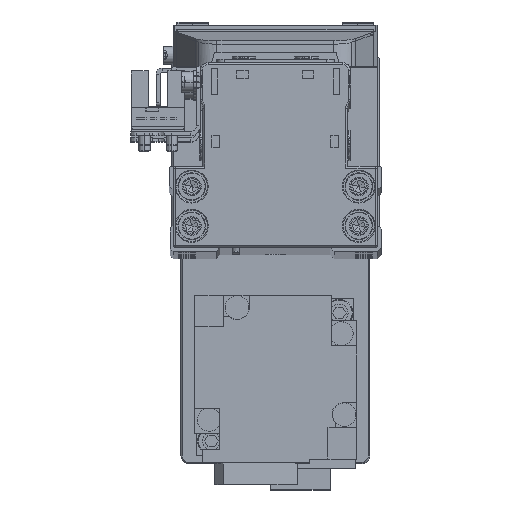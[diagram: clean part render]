
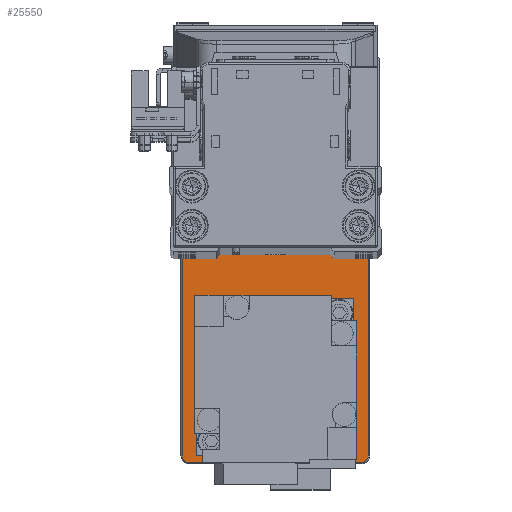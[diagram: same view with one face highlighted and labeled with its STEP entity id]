
A CAD part, top view. The second image highlights one B-rep face of the part: STEP entity #25550.
In plain terms, the highlighted planar face has unit normal (0, 0, 1).
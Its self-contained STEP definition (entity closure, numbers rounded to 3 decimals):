
#14 = VECTOR ( 'NONE', #16092, 1000. ) ;
#44 = CARTESIAN_POINT ( 'NONE',  ( -50., -23.7, 5. ) ) ;
#376 = CARTESIAN_POINT ( 'NONE',  ( 50., -23.7, 5. ) ) ;
#979 = EDGE_CURVE ( 'NONE', #35913, #36770, #28644, .T. ) ;
#1445 = CARTESIAN_POINT ( 'NONE',  ( -38.3, 0., 5. ) ) ;
#2530 = DIRECTION ( 'NONE',  ( 1., 0., 0. ) ) ;
#3452 = EDGE_CURVE ( 'NONE', #14717, #28464, #36846, .T. ) ;
#3500 = CARTESIAN_POINT ( 'NONE',  ( 51.7, 22., 5. ) ) ;
#4193 = CARTESIAN_POINT ( 'NONE',  ( -51.7, -22., 5. ) ) ;
#4617 = DIRECTION ( 'NONE',  ( 1., 0., 0. ) ) ;
#4728 = CARTESIAN_POINT ( 'NONE',  ( 50., 23.7, 5. ) ) ;
#4950 = ORIENTED_EDGE ( 'NONE', *, *, #12214, .T. ) ;
#5296 = CIRCLE ( 'NONE', #28372, 12.8 ) ;
#5297 = ORIENTED_EDGE ( 'NONE', *, *, #3452, .T. ) ;
#5404 = EDGE_CURVE ( 'NONE', #28464, #7848, #40694, .T. ) ;
#5457 = ORIENTED_EDGE ( 'NONE', *, *, #33715, .T. ) ;
#5531 = AXIS2_PLACEMENT_3D ( 'NONE', #36609, #8327, #20930 ) ;
#5737 = CIRCLE ( 'NONE', #11035, 1.7 ) ;
#5775 = DIRECTION ( 'NONE',  ( 0., 0., -1. ) ) ;
#5827 = CARTESIAN_POINT ( 'NONE',  ( 0., 0., 5. ) ) ;
#6599 = ORIENTED_EDGE ( 'NONE', *, *, #37410, .T. ) ;
#6980 = CIRCLE ( 'NONE', #30050, 1.7 ) ;
#7445 = AXIS2_PLACEMENT_3D ( 'NONE', #5827, #18421, #30990 ) ;
#7848 = VERTEX_POINT ( 'NONE', #4193 ) ;
#7931 = DIRECTION ( 'NONE',  ( 0., 0., 1. ) ) ;
#8327 = DIRECTION ( 'NONE',  ( 0., 0., 1. ) ) ;
#8369 = CARTESIAN_POINT ( 'NONE',  ( -50., 22., 5. ) ) ;
#8565 = EDGE_CURVE ( 'NONE', #10481, #18354, #5296, .T. ) ;
#8606 = ORIENTED_EDGE ( 'NONE', *, *, #28482, .T. ) ;
#8933 = FACE_BOUND ( 'NONE', #18170, .T. ) ;
#10154 = VERTEX_POINT ( 'NONE', #27192 ) ;
#10481 = VERTEX_POINT ( 'NONE', #23464 ) ;
#11035 = AXIS2_PLACEMENT_3D ( 'NONE', #20322, #32895, #4617 ) ;
#11180 = CARTESIAN_POINT ( 'NONE',  ( -28., 0., 5. ) ) ;
#11877 = LINE ( 'NONE', #24462, #23420 ) ;
#12214 = EDGE_CURVE ( 'NONE', #7848, #35913, #18070, .T. ) ;
#12424 = CARTESIAN_POINT ( 'NONE',  ( -51.7, -22., 5. ) ) ;
#12780 = AXIS2_PLACEMENT_3D ( 'NONE', #13695, #26287, #38867 ) ;
#12884 = CIRCLE ( 'NONE', #35966, 10.3 ) ;
#12962 = DIRECTION ( 'NONE',  ( 1., 0., 0. ) ) ;
#13176 = ORIENTED_EDGE ( 'NONE', *, *, #31688, .T. ) ;
#13332 = ORIENTED_EDGE ( 'NONE', *, *, #21743, .T. ) ;
#13695 = CARTESIAN_POINT ( 'NONE',  ( 30., 0., 5. ) ) ;
#14717 = VERTEX_POINT ( 'NONE', #21738 ) ;
#15367 = VERTEX_POINT ( 'NONE', #4728 ) ;
#16092 = DIRECTION ( 'NONE',  ( 0., 1., 0. ) ) ;
#16532 = VERTEX_POINT ( 'NONE', #1445 ) ;
#17609 = CIRCLE ( 'NONE', #40649, 10.3 ) ;
#18070 = CIRCLE ( 'NONE', #5531, 1.7 ) ;
#18148 = ORIENTED_EDGE ( 'NONE', *, *, #8565, .T. ) ;
#18170 = EDGE_LOOP ( 'NONE', ( #22502, #5457 ) ) ;
#18233 = CARTESIAN_POINT ( 'NONE',  ( -28., 0., 5. ) ) ;
#18354 = VERTEX_POINT ( 'NONE', #20949 ) ;
#18370 = DIRECTION ( 'NONE',  ( 1., 0., 0. ) ) ;
#18421 = DIRECTION ( 'NONE',  ( 0., 0., 1. ) ) ;
#19045 = AXIS2_PLACEMENT_3D ( 'NONE', #8369, #20968, #33533 ) ;
#19136 = CARTESIAN_POINT ( 'NONE',  ( 50., -23.7, 5. ) ) ;
#19600 = ORIENTED_EDGE ( 'NONE', *, *, #40606, .T. ) ;
#20322 = CARTESIAN_POINT ( 'NONE',  ( 50., -22., 5. ) ) ;
#20520 = DIRECTION ( 'NONE',  ( 1., 0., 0. ) ) ;
#20930 = DIRECTION ( 'NONE',  ( 1., 0., 0. ) ) ;
#20949 = CARTESIAN_POINT ( 'NONE',  ( 42.8, 0., 5. ) ) ;
#20968 = DIRECTION ( 'NONE',  ( 0., 0., 1. ) ) ;
#21523 = FACE_OUTER_BOUND ( 'NONE', #34188, .T. ) ;
#21738 = CARTESIAN_POINT ( 'NONE',  ( -50., 23.7, 5. ) ) ;
#21743 = EDGE_CURVE ( 'NONE', #18354, #10481, #30574, .T. ) ;
#22019 = CARTESIAN_POINT ( 'NONE',  ( 51.7, -22., 5. ) ) ;
#22502 = ORIENTED_EDGE ( 'NONE', *, *, #32146, .T. ) ;
#23420 = VECTOR ( 'NONE', #37063, 1000. ) ;
#23464 = CARTESIAN_POINT ( 'NONE',  ( 17.2, 0., 5. ) ) ;
#23627 = CARTESIAN_POINT ( 'NONE',  ( -51.7, 22., 5. ) ) ;
#23766 = DIRECTION ( 'NONE',  ( 0., 0., -1. ) ) ;
#24462 = CARTESIAN_POINT ( 'NONE',  ( -50., 23.7, 5. ) ) ;
#24644 = VERTEX_POINT ( 'NONE', #22019 ) ;
#25007 = DIRECTION ( 'NONE',  ( 0., -1., 0. ) ) ;
#25550 = ADVANCED_FACE ( 'NONE', ( #37211, #8933, #21523 ), #34099, .T. ) ;
#25757 = VECTOR ( 'NONE', #25007, 1000. ) ;
#26047 = VECTOR ( 'NONE', #12962, 1000. ) ;
#26271 = EDGE_LOOP ( 'NONE', ( #13332, #18148 ) ) ;
#26287 = DIRECTION ( 'NONE',  ( 0., 0., -1. ) ) ;
#27192 = CARTESIAN_POINT ( 'NONE',  ( -17.7, 0., 5. ) ) ;
#28372 = AXIS2_PLACEMENT_3D ( 'NONE', #34046, #5775, #18370 ) ;
#28464 = VERTEX_POINT ( 'NONE', #23627 ) ;
#28482 = EDGE_CURVE ( 'NONE', #36840, #15367, #6980, .T. ) ;
#28644 = LINE ( 'NONE', #376, #26047 ) ;
#28788 = ORIENTED_EDGE ( 'NONE', *, *, #5404, .T. ) ;
#30050 = AXIS2_PLACEMENT_3D ( 'NONE', #36207, #7931, #20520 ) ;
#30574 = CIRCLE ( 'NONE', #12780, 12.8 ) ;
#30804 = DIRECTION ( 'NONE',  ( 0., 0., -1. ) ) ;
#30990 = DIRECTION ( 'NONE',  ( 1., 0., 0. ) ) ;
#31688 = EDGE_CURVE ( 'NONE', #15367, #14717, #11877, .T. ) ;
#31762 = LINE ( 'NONE', #3500, #14 ) ;
#32146 = EDGE_CURVE ( 'NONE', #10154, #16532, #12884, .T. ) ;
#32358 = ORIENTED_EDGE ( 'NONE', *, *, #979, .T. ) ;
#32895 = DIRECTION ( 'NONE',  ( 0., 0., 1. ) ) ;
#33533 = DIRECTION ( 'NONE',  ( 1., 0., 0. ) ) ;
#33715 = EDGE_CURVE ( 'NONE', #16532, #10154, #17609, .T. ) ;
#34046 = CARTESIAN_POINT ( 'NONE',  ( 30., 0., 5. ) ) ;
#34099 = PLANE ( 'NONE',  #7445 ) ;
#34188 = EDGE_LOOP ( 'NONE', ( #32358, #6599, #19600, #8606, #13176, #5297, #28788, #4950 ) ) ;
#35913 = VERTEX_POINT ( 'NONE', #44 ) ;
#35966 = AXIS2_PLACEMENT_3D ( 'NONE', #18233, #30804, #2530 ) ;
#36207 = CARTESIAN_POINT ( 'NONE',  ( 50., 22., 5. ) ) ;
#36351 = DIRECTION ( 'NONE',  ( 1., 0., 0. ) ) ;
#36609 = CARTESIAN_POINT ( 'NONE',  ( -50., -22., 5. ) ) ;
#36770 = VERTEX_POINT ( 'NONE', #19136 ) ;
#36840 = VERTEX_POINT ( 'NONE', #38534 ) ;
#36846 = CIRCLE ( 'NONE', #19045, 1.7 ) ;
#37063 = DIRECTION ( 'NONE',  ( -1., 0., 0. ) ) ;
#37211 = FACE_BOUND ( 'NONE', #26271, .T. ) ;
#37410 = EDGE_CURVE ( 'NONE', #36770, #24644, #5737, .T. ) ;
#38534 = CARTESIAN_POINT ( 'NONE',  ( 51.7, 22., 5. ) ) ;
#38867 = DIRECTION ( 'NONE',  ( 1., 0., 0. ) ) ;
#40606 = EDGE_CURVE ( 'NONE', #24644, #36840, #31762, .T. ) ;
#40649 = AXIS2_PLACEMENT_3D ( 'NONE', #11180, #23766, #36351 ) ;
#40694 = LINE ( 'NONE', #12424, #25757 ) ;
